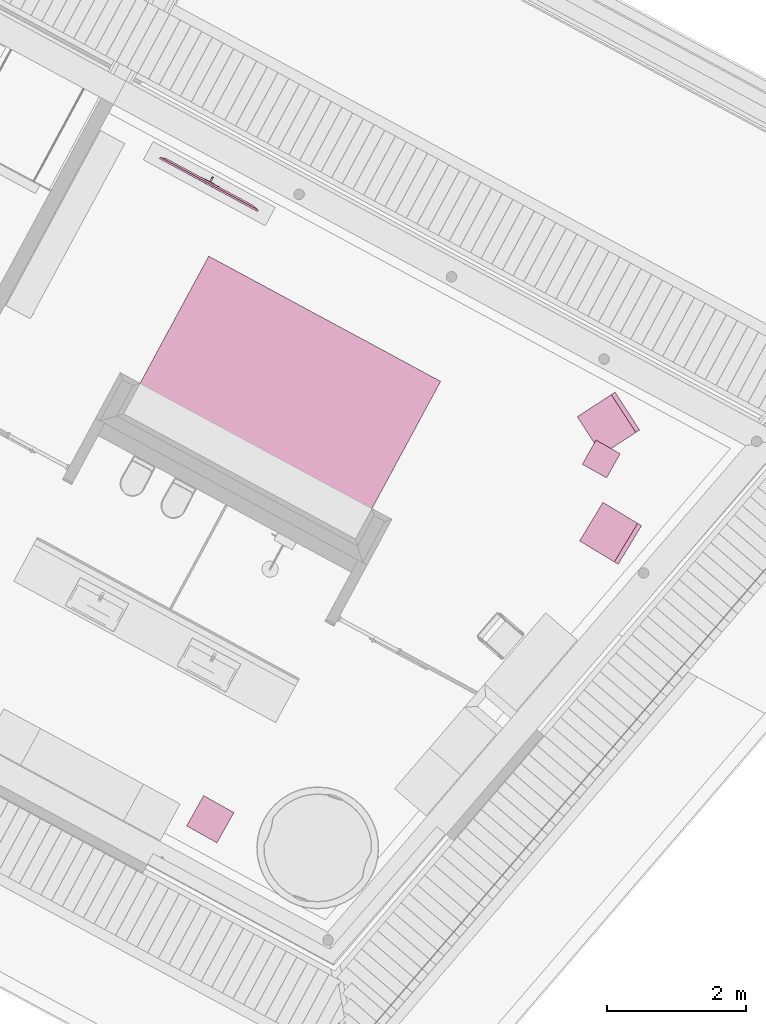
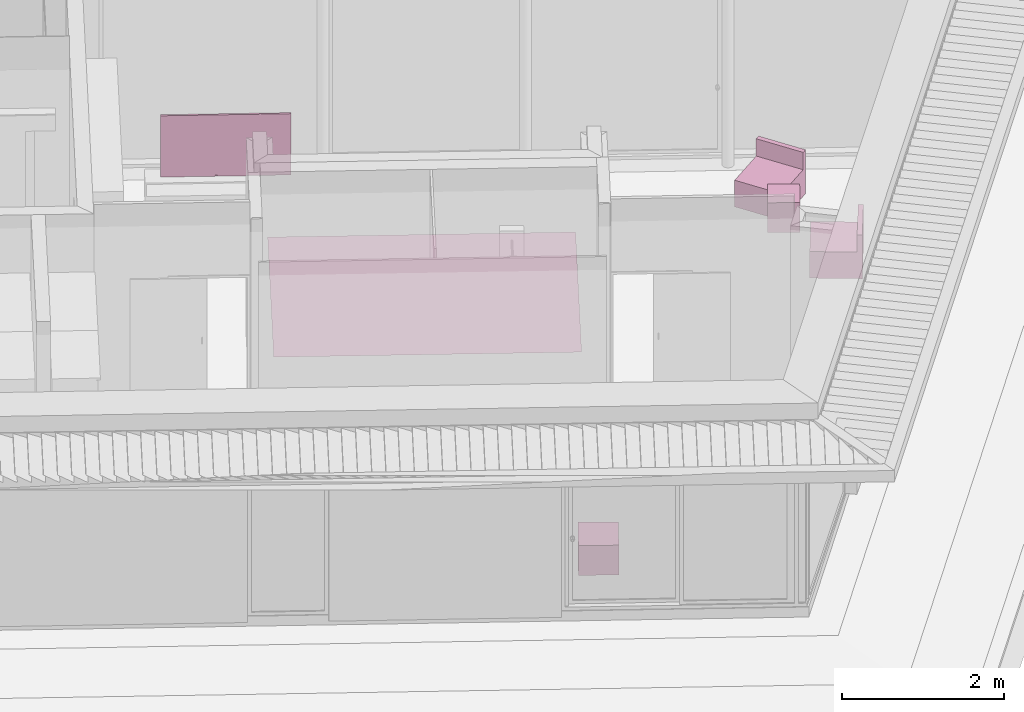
# One storey, part 25 of 41: 6 furnishings.
"""IFC2X3 building model written with IfcOpenShell, lengths in metres."""

from ifc_helpers import new_model, entity, si_unit, converted_unit, derived_unit, money_unit, direction, frame, origin_with_axes, place, context, subcontext, project, spatial, open_shell, faceted_brep, surface_model, source, transform, mapped, type_object, element, save


model = new_model("IFC2X3")

# Units and contexts
model_context = context("Model", 3, precision=1e-05, world=origin_with_axes(), true_north=direction((0.0, 1.0)))
body_context = subcontext(model_context, "Body", "Model", "MODEL_VIEW")
ifc_project = project(units=[si_unit("LENGTHUNIT", "METRE"), si_unit("AREAUNIT", "SQUARE_METRE"), si_unit("VOLUMEUNIT", "CUBIC_METRE"), converted_unit("PLANEANGLEUNIT", "DEGREE", entity("IfcPlaneAngleMeasure", 0.0174532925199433), si_unit("PLANEANGLEUNIT", "RADIAN"), dimensions=[0, 0, 0, 0, 0, 0, 0]), money_unit("EUR"), converted_unit("TIMEUNIT", "Year", entity("IfcTimeMeasure", 31556926.0), si_unit("TIMEUNIT", "SECOND"), dimensions=[0, 0, 1, 0, 0, 0, 0]), si_unit("MASSUNIT", "GRAM", prefix="KILO"), si_unit("THERMODYNAMICTEMPERATUREUNIT", "DEGREE_CELSIUS"), si_unit("LUMINOUSINTENSITYUNIT", "LUMEN"), si_unit("ENERGYUNIT", "JOULE", prefix="MEGA"), derived_unit("THERMALCONDUCTANCEUNIT", [(si_unit("POWERUNIT", "WATT"), 1), (si_unit("LENGTHUNIT", "METRE"), -1), (si_unit("THERMODYNAMICTEMPERATUREUNIT", "KELVIN"), -1)]), derived_unit("SPECIFICHEATCAPACITYUNIT", [(si_unit("ENERGYUNIT", "JOULE"), 1), (si_unit("MASSUNIT", "GRAM", prefix="KILO"), -1), (si_unit("THERMODYNAMICTEMPERATUREUNIT", "KELVIN"), -1)]), derived_unit("MASSDENSITYUNIT", [(si_unit("MASSUNIT", "GRAM", prefix="KILO"), 1), (si_unit("VOLUMEUNIT", "CUBIC_METRE"), -1)])], contexts=[model_context])

# Site, building, storey
site_placement = place(None, frame((-3.949935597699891, 1.740105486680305, 0.0), z_axis=(0.0, 0.0, 1.0), x_axis=(0.8799804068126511, -0.475009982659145, 0.0)))
site = spatial("IfcSite", under=ifc_project, at=site_placement, Name="Gelände", CompositionType="ELEMENT")
building_placement = place(site_placement, origin_with_axes())
building = spatial("IfcBuilding", under=site, at=building_placement, Name="Gebäude", CompositionType="ELEMENT")
storey_placement = place(building_placement, frame((0.0, 0.0, 4.55), z_axis=(0.0, 0.0, 1.0), x_axis=(1.0, 0.0, 0.0)))
storey = spatial("IfcBuildingStorey", under=building, at=storey_placement, Name="Staffelgeschoss", CompositionType="ELEMENT", Elevation=4.55)

# Furnishings
furniture_type_1 = type_object("IfcFurnitureType", Name="Flachbildfernseher 22", AssemblyPlace="NOTDEFINED")
shared_shape_1 = source(origin_with_axes(), body_context, "Body", "Brep", [
    faceted_brep([(-0.7294179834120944, 0.06000000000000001, 0.5362351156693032), (-0.8794179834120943, 0.06000000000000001, 0.5362351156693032), (-0.8794179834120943, 0.05000000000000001, 0.5362351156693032), (-0.7294179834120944, 0.05000000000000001, 0.5362351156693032), (-0.7294179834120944, 0.06, 0.3862351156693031), (-0.8794179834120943, 0.06, 0.3862351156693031), (-0.8794179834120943, 0.05, 0.3862351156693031), (-0.7294179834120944, 0.05, 0.3862351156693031)], [[[0, 1, 2, 3]], [[0, 4, 5, 1]], [[1, 5, 6, 2]], [[3, 2, 6, 7]], [[4, 0, 3, 7]], [[5, 4, 7, 6]]]),
    faceted_brep([(-0.6544179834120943, 0.055, 0.3662351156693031), (-0.6544179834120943, 0.055, 0.3862351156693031), (-0.6544179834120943, 0.05, 0.3862351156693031), (-0.6544179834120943, 0.05, 0.3662351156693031), (-0.9544179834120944, 0.055, 0.3662351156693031), (-0.9544179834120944, 0.055, 0.3862351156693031), (-0.9544179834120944, 0.05, 0.3862351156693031), (-0.9544179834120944, 0.05, 0.3662351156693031)], [[[0, 1, 2, 3]], [[0, 4, 5, 1]], [[1, 5, 6, 2]], [[3, 2, 6, 7]], [[4, 0, 3, 7]], [[5, 4, 7, 6]]]),
    faceted_brep([(-0.6544179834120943, 0.05500000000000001, 0.5562351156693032), (-0.6544179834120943, 0.05000000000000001, 0.5562351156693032), (-0.6544179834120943, 0.05000000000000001, 0.5362351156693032), (-0.6544179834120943, 0.05500000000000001, 0.5362351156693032), (-0.9544179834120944, 0.05500000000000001, 0.5562351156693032), (-0.9544179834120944, 0.05000000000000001, 0.5562351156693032), (-0.9544179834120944, 0.05000000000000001, 0.5362351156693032), (-0.9544179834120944, 0.05500000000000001, 0.5362351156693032)], [[[0, 1, 2, 3]], [[4, 5, 1, 0]], [[1, 5, 6, 2]], [[3, 2, 6, 7]], [[0, 3, 7, 4]], [[7, 6, 5, 4]]]),
    faceted_brep([(-0.6694179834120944, 0.05999999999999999, 0.3487351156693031), (-0.6694179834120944, 0.06, 0.5737351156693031), (-0.6594179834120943, 0.06, 0.5737351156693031), (-0.6594179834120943, 0.05999999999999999, 0.3487351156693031), (-0.6694179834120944, 0.04999999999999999, 0.3112351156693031), (-0.6694179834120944, 0.05, 0.6112351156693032), (-0.6594179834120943, 0.05, 0.6112351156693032), (-0.6594179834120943, 0.04999999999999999, 0.3112351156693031)], [[[0, 1, 2, 3]], [[0, 4, 5, 1]], [[1, 5, 6, 2]], [[3, 2, 6, 7]], [[4, 0, 3, 7]], [[5, 4, 7, 6]]]),
    faceted_brep([(-0.9394179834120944, 0.06, 0.3487351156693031), (-0.9494179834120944, 0.06, 0.3487351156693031), (-0.9494179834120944, 0.06000000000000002, 0.5737351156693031), (-0.9394179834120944, 0.06000000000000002, 0.5737351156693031), (-0.9394179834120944, 0.05, 0.3112351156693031), (-0.9494179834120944, 0.05, 0.3112351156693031), (-0.9494179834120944, 0.05000000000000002, 0.6112351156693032), (-0.9394179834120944, 0.05000000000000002, 0.6112351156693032)], [[[0, 1, 2, 3]], [[4, 5, 1, 0]], [[1, 5, 6, 2]], [[3, 2, 6, 7]], [[0, 3, 7, 4]], [[7, 6, 5, 4]]]),
    faceted_brep([(-0.8169179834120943, 0.09375000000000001, 0.4737351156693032), (-0.8161641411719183, 0.09802525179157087, 0.4737351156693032), (-0.8161641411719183, 0.09802525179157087, 0.4237351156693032), (-0.8169179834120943, 0.09375000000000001, 0.4237351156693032), (-0.8161641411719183, 0.08947474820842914, 0.4737351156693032), (-0.8139935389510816, 0.08571515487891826, 0.4737351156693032), (-0.8106679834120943, 0.08292468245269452, 0.4737351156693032), (-0.806588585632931, 0.0814399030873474, 0.4737351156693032), (-0.8022473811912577, 0.08143990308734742, 0.4737351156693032), (-0.7981679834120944, 0.08292468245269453, 0.4737351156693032), (-0.7948424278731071, 0.08571515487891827, 0.4737351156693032), (-0.7926718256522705, 0.08947474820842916, 0.4737351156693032), (-0.7919179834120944, 0.09375000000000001, 0.4737351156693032), (-0.7926718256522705, 0.09802525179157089, 0.4737351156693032), (-0.7948424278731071, 0.1017848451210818, 0.4737351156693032), (-0.7981679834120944, 0.1045753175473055, 0.4737351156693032), (-0.8022473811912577, 0.1060600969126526, 0.4737351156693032), (-0.806588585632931, 0.1060600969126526, 0.4737351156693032), (-0.8106679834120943, 0.1045753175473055, 0.4737351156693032), (-0.8139935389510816, 0.1017848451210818, 0.4737351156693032), (-0.8139935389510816, 0.1017848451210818, 0.4237351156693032), (-0.8106679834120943, 0.1045753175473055, 0.4237351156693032), (-0.806588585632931, 0.1060600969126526, 0.4237351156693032), (-0.8022473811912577, 0.1060600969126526, 0.4237351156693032), (-0.7981679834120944, 0.1045753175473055, 0.4237351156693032), (-0.7948424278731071, 0.1017848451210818, 0.4237351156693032), (-0.7926718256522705, 0.09802525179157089, 0.4237351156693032), (-0.7919179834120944, 0.09375000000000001, 0.4237351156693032), (-0.7926718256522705, 0.08947474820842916, 0.4237351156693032), (-0.7948424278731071, 0.08571515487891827, 0.4237351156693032), (-0.7981679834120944, 0.08292468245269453, 0.4237351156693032), (-0.8022473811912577, 0.08143990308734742, 0.4237351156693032), (-0.806588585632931, 0.0814399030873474, 0.4237351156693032), (-0.8106679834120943, 0.08292468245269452, 0.4237351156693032), (-0.8139935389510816, 0.08571515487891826, 0.4237351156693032), (-0.8161641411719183, 0.08947474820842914, 0.4237351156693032)], [[[0, 1, 2, 3]], [[0, 4, 5, 6, 7, 8, 9, 10, 11, 12, 13, 14, 15, 16, 17, 18, 19, 1]], [[1, 19, 20, 2]], [[3, 2, 20, 21, 22, 23, 24, 25, 26, 27, 28, 29, 30, 31, 32, 33, 34, 35]], [[4, 0, 3, 35]], [[5, 4, 35, 34]], [[6, 5, 34, 33]], [[7, 6, 33, 32]], [[8, 7, 32, 31]], [[9, 8, 31, 30]], [[10, 9, 30, 29]], [[11, 10, 29, 28]], [[12, 11, 28, 27]], [[13, 12, 27, 26]], [[14, 13, 26, 25]], [[15, 14, 25, 24]], [[16, 15, 24, 23]], [[17, 16, 23, 22]], [[18, 17, 22, 21]], [[19, 18, 21, 20]]]),
    faceted_brep([(-0.8169179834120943, 0.09375000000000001, 0.4487351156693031), (-0.8169179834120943, 0.06, 0.4487351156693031), (-0.8169179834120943, 0.06, 0.4737351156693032), (-0.8169179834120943, 0.09375000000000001, 0.4737351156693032), (-0.8161641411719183, 0.08947474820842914, 0.4487351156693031), (-0.8139935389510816, 0.08571515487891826, 0.4487351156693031), (-0.8106679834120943, 0.08292468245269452, 0.4487351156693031), (-0.806588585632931, 0.0814399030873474, 0.4487351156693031), (-0.8022473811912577, 0.08143990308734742, 0.4487351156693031), (-0.7981679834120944, 0.08292468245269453, 0.4487351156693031), (-0.7948424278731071, 0.08571515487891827, 0.4487351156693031), (-0.7926718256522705, 0.08947474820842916, 0.4487351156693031), (-0.7919179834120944, 0.09375000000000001, 0.4487351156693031), (-0.7919179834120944, 0.06, 0.4487351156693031), (-0.7919179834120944, 0.06, 0.4737351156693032), (-0.7926718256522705, 0.08947474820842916, 0.4737351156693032), (-0.7948424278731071, 0.08571515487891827, 0.4737351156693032), (-0.7981679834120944, 0.08292468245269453, 0.4737351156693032), (-0.8022473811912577, 0.08143990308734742, 0.4737351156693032), (-0.806588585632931, 0.0814399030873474, 0.4737351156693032), (-0.8106679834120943, 0.08292468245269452, 0.4737351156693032), (-0.8139935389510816, 0.08571515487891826, 0.4737351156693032), (-0.8161641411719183, 0.08947474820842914, 0.4737351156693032), (-0.7919179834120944, 0.09375000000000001, 0.4737351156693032)], [[[0, 1, 2, 3]], [[4, 5, 6, 7, 8, 9, 10, 11, 12, 13, 1, 0]], [[1, 13, 14, 2]], [[15, 16, 17, 18, 19, 20, 21, 22, 3, 2, 14, 23]], [[22, 4, 0, 3]], [[21, 5, 4, 22]], [[20, 6, 5, 21]], [[19, 7, 6, 20]], [[18, 8, 7, 19]], [[17, 9, 8, 18]], [[16, 10, 9, 17]], [[15, 11, 10, 16]], [[23, 12, 11, 15]], [[23, 14, 13, 12]]]),
    faceted_brep([(-0.8139935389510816, 0.1017848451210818, 0.4487351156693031), (-0.8106679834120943, 0.1045753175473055, 0.4487351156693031), (-0.806588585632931, 0.1060600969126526, 0.4487351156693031), (-0.8022473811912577, 0.1060600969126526, 0.4487351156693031), (-0.7981679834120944, 0.1045753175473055, 0.4487351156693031), (-0.7948424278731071, 0.1017848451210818, 0.4487351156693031), (-0.7926718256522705, 0.09802525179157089, 0.4487351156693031), (-0.7919179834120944, 0.09375000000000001, 0.4487351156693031), (-0.7919179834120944, 0.1275, 0.4487351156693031), (-0.8169179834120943, 0.1275, 0.4487351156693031), (-0.8169179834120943, 0.09375000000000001, 0.4487351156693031), (-0.8161641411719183, 0.09802525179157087, 0.4487351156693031), (-0.8139935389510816, 0.1017848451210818, 0.4237351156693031), (-0.8106679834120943, 0.1045753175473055, 0.4237351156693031), (-0.806588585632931, 0.1060600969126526, 0.4237351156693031), (-0.8022473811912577, 0.1060600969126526, 0.4237351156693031), (-0.7981679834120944, 0.1045753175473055, 0.4237351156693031), (-0.7948424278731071, 0.1017848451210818, 0.4237351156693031), (-0.7926718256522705, 0.09802525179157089, 0.4237351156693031), (-0.7919179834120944, 0.09375000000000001, 0.4237351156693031), (-0.7919179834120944, 0.1275, 0.4237351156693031), (-0.8169179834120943, 0.1275, 0.4237351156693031), (-0.8169179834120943, 0.09375000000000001, 0.4237351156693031), (-0.8161641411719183, 0.09802525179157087, 0.4237351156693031)], [[[0, 1, 2, 3, 4, 5, 6, 7, 8, 9, 10, 11]], [[0, 12, 13, 1]], [[1, 13, 14, 2]], [[2, 14, 15, 3]], [[3, 15, 16, 4]], [[4, 16, 17, 5]], [[5, 17, 18, 6]], [[6, 18, 19, 7]], [[19, 20, 8, 7]], [[8, 20, 21, 9]], [[10, 9, 21, 22]], [[10, 22, 23, 11]], [[11, 23, 12, 0]], [[18, 17, 16, 15, 14, 13, 12, 23, 22, 21, 20, 19]]]),
    faceted_brep([(-0.7894179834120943, 0.1275, 0.3612351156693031), (-0.8194179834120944, 0.1275, 0.3612351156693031), (-0.8194179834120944, 0.1375, 0.3612351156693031), (-0.7894179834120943, 0.1375, 0.3612351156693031), (-0.7894179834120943, 0.1275, 0.5112351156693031), (-0.8194179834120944, 0.1275, 0.5112351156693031), (-0.8194179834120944, 0.1375, 0.5112351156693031), (-0.7894179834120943, 0.1375, 0.5112351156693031)], [[[0, 1, 2, 3]], [[0, 4, 5, 1]], [[1, 5, 6, 2]], [[3, 2, 6, 7]], [[4, 0, 3, 7]], [[5, 4, 7, 6]]]),
    faceted_brep([(-1.588835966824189, 0.0, 0.02), (-1.588835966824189, 0.0, 0.9024702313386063), (-1.588835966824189, 0.0009999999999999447, 0.9024702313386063), (-1.588835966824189, 0.0009999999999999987, 0.02), (-0.02, 0.0, 0.02), (-0.02, 0.0, 0.9024702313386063), (-0.02, 0.0009999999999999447, 0.9024702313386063), (-0.02, 0.0009999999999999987, 0.02)], [[[0, 1, 2, 3]], [[0, 4, 5, 1]], [[1, 5, 6, 2]], [[3, 2, 6, 7]], [[4, 0, 3, 7]], [[5, 4, 7, 6]]]),
    faceted_brep([(-1.608835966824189, 0.0, 0.9224702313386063), (-1.608835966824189, 0.0, 0.0), (0.0, 0.0, 0.0), (0.0, 0.0, 0.9224702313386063), (-0.02000000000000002, 0.0, 0.02000000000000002), (-1.588835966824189, 0.0, 0.02000000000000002), (-1.588835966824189, 0.0, 0.9024702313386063), (-0.02000000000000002, 0.0, 0.9024702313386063), (-1.608835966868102, 0.025, -3.895163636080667e-10), (-1.608835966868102, 0.02499999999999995, 0.9224702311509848), (3.895163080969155e-10, 0.025, -3.895163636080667e-10), (3.895163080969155e-10, 0.02499999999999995, 0.9224702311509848), (-0.02000000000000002, 0.0009999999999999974, 0.02000000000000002), (-1.588835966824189, 0.0009999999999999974, 0.02000000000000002), (-1.588835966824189, 0.0009999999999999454, 0.9024702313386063), (-0.02000000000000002, 0.0009999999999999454, 0.9024702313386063), (-1.515534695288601, 0.05000000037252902, 0.09330127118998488), (-1.515534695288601, 0.05000000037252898, 0.8291689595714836), (-0.09330127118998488, 0.05000000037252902, 0.09330127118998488), (-0.09330127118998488, 0.05000000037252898, 0.8291689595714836)], [[[0, 1, 2, 3], [4, 5, 6, 7]], [[8, 1, 0, 9]], [[10, 2, 1, 8]], [[11, 3, 2, 10]], [[9, 0, 3, 11]], [[4, 12, 13, 5]], [[5, 13, 14, 6]], [[6, 14, 15, 7]], [[7, 15, 12, 4]], [[16, 8, 9, 17]], [[18, 10, 8, 16]], [[19, 11, 10, 18]], [[17, 9, 11, 19]], [[14, 13, 12, 15]], [[17, 19, 18, 16]]]),
    faceted_brep([(-0.8044179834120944, -0.0008000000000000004, 0.005), (-0.8205063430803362, -0.0008000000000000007, 0.01), (-0.8205063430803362, 0.0, 0.01), (-0.8044179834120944, 0.0, 0.005), (-0.7883296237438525, -0.0008000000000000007, 0.01), (-0.6435343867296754, -0.000800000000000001, 0.015), (-0.9653015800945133, -0.000800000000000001, 0.015), (-0.9653015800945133, 0.0, 0.015), (-0.6435343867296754, 0.0, 0.015), (-0.7883296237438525, 0.0, 0.01)], [[[0, 1, 2, 3]], [[0, 4, 5, 6, 1]], [[1, 6, 7, 2]], [[3, 2, 7, 8, 9]], [[4, 0, 3, 9]], [[5, 4, 9, 8]], [[6, 5, 8, 7]]]),
    faceted_brep([(-0.2145114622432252, 0.009999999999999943, 0.9224702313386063), (-0.1072557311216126, 0.009999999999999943, 0.9224702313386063), (-0.1072557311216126, 0.009999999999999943, 0.9240702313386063), (-0.2145114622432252, 0.009999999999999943, 0.9240702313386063), (-0.2145114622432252, 0.01624999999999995, 0.9224702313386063), (-0.1072557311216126, 0.01624999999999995, 0.9224702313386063), (-0.1072557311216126, 0.01624999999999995, 0.9240702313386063), (-0.2145114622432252, 0.01624999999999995, 0.9240702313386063)], [[[0, 1, 2, 3]], [[1, 0, 4, 5]], [[2, 1, 5, 6]], [[3, 2, 6, 7]], [[0, 3, 7, 4]], [[5, 4, 7, 6]]]),
    faceted_brep([(-0.3294283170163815, 0.009999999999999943, 0.9224702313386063), (-0.2221725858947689, 0.009999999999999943, 0.9224702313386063), (-0.2221725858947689, 0.009999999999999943, 0.9240702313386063), (-0.3294283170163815, 0.009999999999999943, 0.9240702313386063), (-0.3294283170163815, 0.01624999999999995, 0.9224702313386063), (-0.2221725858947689, 0.01624999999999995, 0.9224702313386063), (-0.2221725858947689, 0.01624999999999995, 0.9240702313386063), (-0.3294283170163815, 0.01624999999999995, 0.9240702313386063)], [[[0, 1, 2, 3]], [[1, 0, 4, 5]], [[2, 1, 5, 6]], [[3, 2, 6, 7]], [[0, 3, 7, 4]], [[5, 4, 7, 6]]]),
    faceted_brep([(-0.3907173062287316, 0.009999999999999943, 0.9224702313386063), (-0.3370894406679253, 0.009999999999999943, 0.9224702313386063), (-0.3370894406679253, 0.009999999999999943, 0.9240702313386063), (-0.3907173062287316, 0.009999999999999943, 0.9240702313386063), (-0.3907173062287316, 0.01624999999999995, 0.9224702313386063), (-0.3370894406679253, 0.01624999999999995, 0.9224702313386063), (-0.3370894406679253, 0.01624999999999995, 0.9240702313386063), (-0.3907173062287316, 0.01624999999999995, 0.9240702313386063)], [[[0, 1, 2, 3]], [[1, 0, 4, 5]], [[2, 1, 5, 6]], [[3, 2, 6, 7]], [[0, 3, 7, 4]], [[5, 4, 7, 6]]]),
])
furnishing_1_placement = place(storey_placement, frame((19.93206846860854, 10.28438647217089, 0.2999999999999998), z_axis=(0.0, 0.0, 1.0), x_axis=(1.0, 0.0, 0.0)))
element("IfcFurnishingElement", 1, at=furnishing_1_placement, inside=storey, type_object=furniture_type_1, Name="Objekt-0064", ObjectType="FURNITURE", context=body_context, shape_type="MappedRepresentation", body=[
    mapped(shared_shape_1, transform((0.0, 0.0, 0.0))),
])
furniture_type_2 = type_object("IfcFurnitureType", Name="Armstuhl 2 22", AssemblyPlace="NOTDEFINED")
shared_shape_2 = source(origin_with_axes(), body_context, "Body", "Brep", [
    faceted_brep([(0.65, 0.0, 0.0), (0.65, 0.0, 0.4), (0.0, 0.0, 0.4), (0.0, 0.0, 0.0), (0.65, 0.65, 0.0), (0.65, 0.65, 0.66), (0.65, 0.5850000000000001, 0.66), (0.65, 0.5850000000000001, 0.4), (0.0, 0.5850000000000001, 0.4), (0.0, 0.5850000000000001, 0.66), (0.0, 0.65, 0.66), (0.0, 0.65, 0.0)], [[[0, 1, 2, 3]], [[0, 4, 5, 6, 7, 1]], [[1, 7, 8, 2]], [[3, 2, 8, 9, 10, 11]], [[4, 0, 3, 11]], [[5, 4, 11, 10]], [[6, 5, 10, 9]], [[7, 6, 9, 8]]]),
])
furnishing_2_placement = place(storey_placement, frame((26.30554814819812, 8.962025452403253, 0.0), z_axis=(0.0, 0.0, 1.0), x_axis=(-0.04920142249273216, -0.9987888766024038, 0.0)))
element("IfcFurnishingElement", 2, at=furnishing_2_placement, inside=storey, type_object=furniture_type_2, Name="Objekt-0070", ObjectType="FURNITURE", context=body_context, shape_type="MappedRepresentation", body=[
    mapped(shared_shape_2, transform((0.0, 0.0, 0.0))),
])
furniture_type_3 = type_object("IfcFurnitureType", Name="Couchtisch 1 22", AssemblyPlace="NOTDEFINED")
furnishing_3_placement = place(storey_placement, frame((26.1836384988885, 9.2973628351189, 0.0), z_axis=(0.0, 0.0, 1.0), x_axis=(0.9998434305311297, -0.01769503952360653, 0.0)))
element("IfcFurnishingElement", 3, at=furnishing_3_placement, inside=storey, type_object=furniture_type_3, Name="Objekt-0072", ObjectType="FURNITURE", context=body_context, shape_type="Brep", body=[
    faceted_brep([(0.0, 0.0, 0.0), (0.0, 0.0, 0.45), (-0.4, 0.0, 0.45), (-0.4, 0.0, 0.0), (0.0, 0.4, 0.0), (0.0, 0.4, 0.45), (-0.4, 0.4, 0.45), (-0.4, 0.4, 0.0)], [[[0, 1, 2, 3]], [[4, 5, 1, 0]], [[1, 5, 6, 2]], [[3, 2, 6, 7]], [[0, 3, 7, 4]], [[7, 6, 5, 4]]]),
])
furnishing_4_placement = place(storey_placement, frame((23.73925952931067, 1.99826209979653, 0.0), z_axis=(0.0, 0.0, 1.0), x_axis=(0.9998434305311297, -0.01769503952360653, 0.0)))
element("IfcFurnishingElement", 4, at=furnishing_4_placement, inside=storey, type_object=furniture_type_3, Name="Objekt-0072", ObjectType="FURNITURE", context=body_context, shape_type="Brep", body=[
    faceted_brep([(0.0, 0.0, 0.0), (0.0, 0.0, 0.45), (-0.5, 0.0, 0.45), (-0.5, 0.0, 0.0), (0.0, 0.5, 0.0), (0.0, 0.5, 0.45), (-0.5, 0.5, 0.45), (-0.5, 0.5, 0.0)], [[[0, 1, 2, 3]], [[4, 5, 1, 0]], [[1, 5, 6, 2]], [[3, 2, 6, 7]], [[0, 3, 7, 4]], [[7, 6, 5, 4]]]),
])
furnishing_5_placement = place(storey_placement, frame((25.96352773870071, 9.560824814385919, 0.0), z_axis=(0.0, 0.0, 1.0), x_axis=(0.8774027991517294, -0.4797544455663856, 0.0)))
element("IfcFurnishingElement", 5, at=furnishing_5_placement, inside=storey, type_object=furniture_type_2, Name="Objekt-0070", ObjectType="FURNITURE", context=body_context, shape_type="Brep", body=[
    faceted_brep([(-0.65, 0.0, 0.0), (0.0, 0.0, 0.0), (0.0, 0.0, 0.4), (-0.65, 0.0, 0.4), (-0.65, 0.65, 0.0), (0.0, 0.65, 0.0), (0.0, 0.65, 0.66), (0.0, 0.5850000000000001, 0.66), (0.0, 0.5850000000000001, 0.4), (-0.65, 0.5850000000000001, 0.4), (-0.65, 0.5850000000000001, 0.66), (-0.65, 0.65, 0.66)], [[[0, 1, 2, 3]], [[4, 5, 1, 0]], [[1, 5, 6, 7, 8, 2]], [[3, 2, 8, 9]], [[0, 3, 9, 10, 11, 4]], [[11, 6, 5, 4]], [[10, 7, 6, 11]], [[9, 8, 7, 10]]]),
])
furniture_type_4 = type_object("IfcFurnitureType", Name="Teppich 22", AssemblyPlace="NOTDEFINED")
furnishing_6_placement = place(storey_placement, frame((19.61753332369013, 6.802148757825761, -5.892262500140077e-07), z_axis=(0.0, 0.0, 1.0), x_axis=(0.0, -1.0, 0.0)))
element("IfcFurnishingElement", 6, at=furnishing_6_placement, inside=storey, type_object=furniture_type_4, Name="Objekt-0074", ObjectType="FURNITURE", context=body_context, shape_type="SurfaceModel", body=[
    surface_model("IfcShellBasedSurfaceModel", [(0.0, 0.0, 0.001), (-2.583505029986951, 0.0, 0.001), (-2.583505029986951, 3.800000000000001, 0.001), (0.0, 3.800000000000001, 0.001)], [open_shell([[[0, 1, 2, 3]]])]),
])

save(model, "model.ifc")
